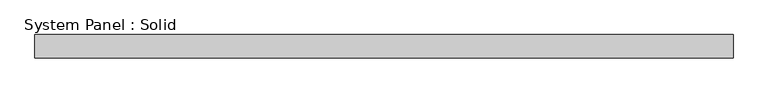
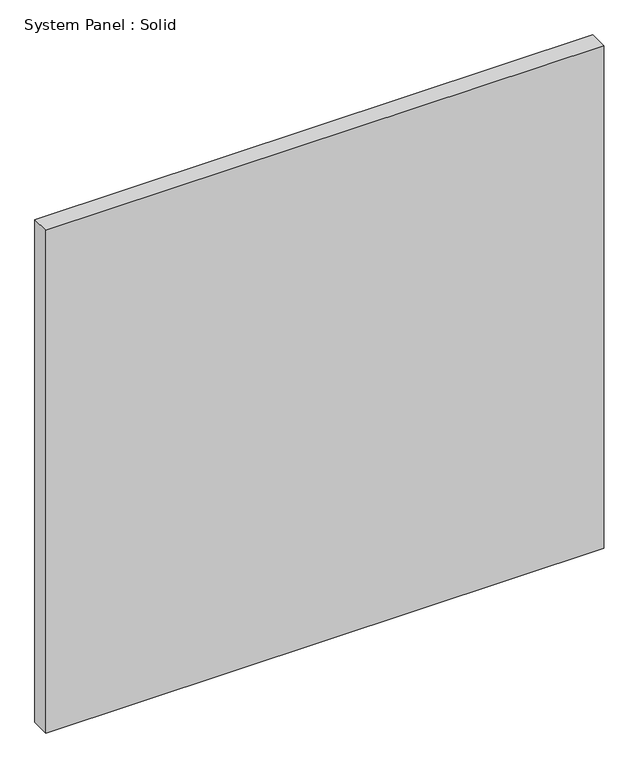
"""IFC4 building model written with IfcOpenShell, lengths in millimetres: plate geometry, System Panel : Solid."""

from ifc_helpers import new_model, si_unit, origin, origin_with_axes, place, context, project, spatial, polyline, outline, extrude, source, transform, mapped, element, save


def system_panel_solid_6ff0af23(model_context):
    return source(origin(), model_context, "Body", "SweptSolid", [
        extrude(outline(polyline([(525.0, -2.5), (-525.0, -2.5), (-525.0, 32.5), (525.0, 32.5), (525.0, -2.5)])), origin_with_axes(), (0.0, 0.0, 1.0), 1000.0),
    ])


if __name__ == "__main__":
    model = new_model("IFC4")
    model_context = context("Model", 3, world=origin())
    ifc_project = project(units=[si_unit("LENGTHUNIT", "METRE", prefix="MILLI")], contexts=[model_context])
    site = spatial("IfcSite", under=ifc_project)
    building = spatial("IfcBuilding", under=site)
    placement = place(None, origin())
    system_panel_solid_shape = system_panel_solid_6ff0af23(model_context)
    element("IfcPlate", 1, ObjectType="System Panel : Solid", at=placement, inside=building, context=model_context, shape_type="MappedRepresentation", body=[
        mapped(system_panel_solid_shape, transform((0.0, 0.0, 0.0), x_axis=(1.0, 0.0, 0.0), y_axis=(0.0, 1.0, 0.0), z_axis=(0.0, 0.0, 1.0))),
    ])
    save(model, "model.ifc")
